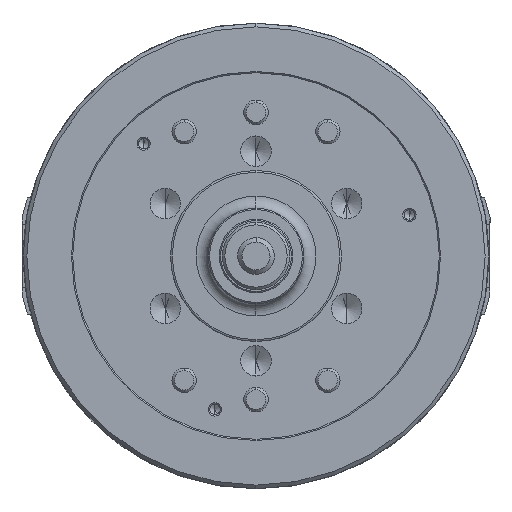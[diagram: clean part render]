
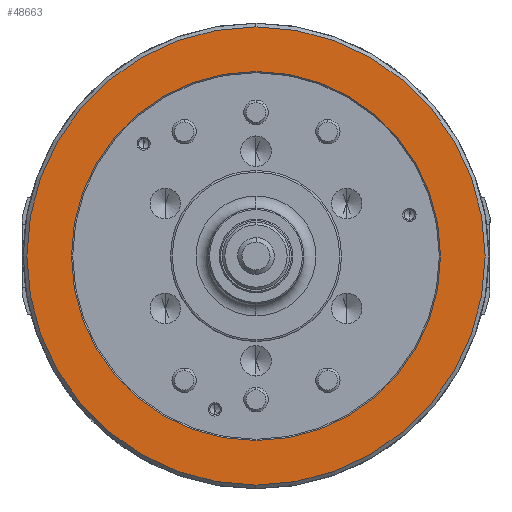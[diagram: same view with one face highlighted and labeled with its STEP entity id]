
A CAD part, left-side view. The second image highlights one B-rep face of the part: STEP entity #48663.
In plain terms, the highlighted planar face has unit normal (-1, 0, 0) as drawn and (0, 0, -1) by its records, which use the part's own axes.
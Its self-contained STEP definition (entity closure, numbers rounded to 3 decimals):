
#2950 = EDGE_LOOP ( 'NONE', ( #52950, #42757 ) ) ;
#2976 = DIRECTION ( 'NONE',  ( 0., 0., 1. ) ) ;
#3026 = EDGE_CURVE ( 'NONE', #32955, #30808, #35663, .T. ) ;
#3166 = DIRECTION ( 'NONE',  ( 1., 0., 0. ) ) ;
#3777 = VERTEX_POINT ( 'NONE', #29939 ) ;
#5954 = EDGE_CURVE ( 'NONE', #30808, #32955, #19365, .T. ) ;
#9108 = CARTESIAN_POINT ( 'NONE',  ( -151., 0., -114. ) ) ;
#9304 = CIRCLE ( 'NONE', #38020, 151. ) ;
#13402 = CARTESIAN_POINT ( 'NONE',  ( 0., -151., -114. ) ) ;
#14278 = AXIS2_PLACEMENT_3D ( 'NONE', #33907, #2976, #39081 ) ;
#16938 = AXIS2_PLACEMENT_3D ( 'NONE', #24771, #60870, #29942 ) ;
#18699 = FACE_BOUND ( 'NONE', #2950, .T. ) ;
#19365 = CIRCLE ( 'NONE', #42967, 187.5 ) ;
#20130 = EDGE_LOOP ( 'NONE', ( #33832, #29138 ) ) ;
#20826 = CIRCLE ( 'NONE', #16938, 151. ) ;
#23771 = DIRECTION ( 'NONE',  ( 0., 0., 1. ) ) ;
#24771 = CARTESIAN_POINT ( 'NONE',  ( 0., 0., -114. ) ) ;
#29138 = ORIENTED_EDGE ( 'NONE', *, *, #5954, .F. ) ;
#29176 = DIRECTION ( 'NONE',  ( 0., 0., 1. ) ) ;
#29222 = CARTESIAN_POINT ( 'NONE',  ( -187.5, 0., -114. ) ) ;
#29939 = CARTESIAN_POINT ( 'NONE',  ( 151., 0., -114. ) ) ;
#29942 = DIRECTION ( 'NONE',  ( 1., 0., 0. ) ) ;
#30808 = VERTEX_POINT ( 'NONE', #29222 ) ;
#32431 = FACE_OUTER_BOUND ( 'NONE', #20130, .T. ) ;
#32955 = VERTEX_POINT ( 'NONE', #44887 ) ;
#33832 = ORIENTED_EDGE ( 'NONE', *, *, #3026, .F. ) ;
#33907 = CARTESIAN_POINT ( 'NONE',  ( 0., 0., -114. ) ) ;
#33952 = PLANE ( 'NONE',  #53370 ) ;
#34079 = DIRECTION ( 'NONE',  ( 0., 0., 1. ) ) ;
#35663 = CIRCLE ( 'NONE', #14278, 187.5 ) ;
#38020 = AXIS2_PLACEMENT_3D ( 'NONE', #64998, #34079, #3166 ) ;
#39081 = DIRECTION ( 'NONE',  ( 1., 0., 0. ) ) ;
#42757 = ORIENTED_EDGE ( 'NONE', *, *, #45499, .T. ) ;
#42967 = AXIS2_PLACEMENT_3D ( 'NONE', #60105, #29176, #65330 ) ;
#44887 = CARTESIAN_POINT ( 'NONE',  ( 187.5, 0., -114. ) ) ;
#45499 = EDGE_CURVE ( 'NONE', #3777, #47815, #20826, .T. ) ;
#47815 = VERTEX_POINT ( 'NONE', #9108 ) ;
#48663 = ADVANCED_FACE ( 'NONE', ( #32431, #18699 ), #33952, .F. ) ;
#52950 = ORIENTED_EDGE ( 'NONE', *, *, #53905, .T. ) ;
#53370 = AXIS2_PLACEMENT_3D ( 'NONE', #13402, #23771, #59881 ) ;
#53905 = EDGE_CURVE ( 'NONE', #47815, #3777, #9304, .T. ) ;
#59881 = DIRECTION ( 'NONE',  ( 1., 0., 0. ) ) ;
#60105 = CARTESIAN_POINT ( 'NONE',  ( 0., 0., -114. ) ) ;
#60870 = DIRECTION ( 'NONE',  ( 0., 0., 1. ) ) ;
#64998 = CARTESIAN_POINT ( 'NONE',  ( 0., 0., -114. ) ) ;
#65330 = DIRECTION ( 'NONE',  ( 1., 0., 0. ) ) ;
